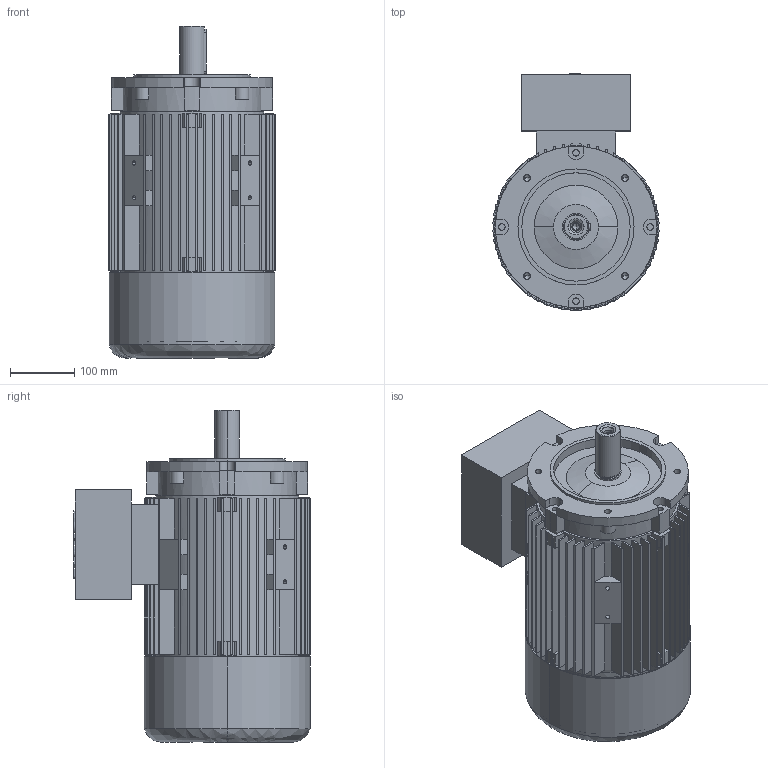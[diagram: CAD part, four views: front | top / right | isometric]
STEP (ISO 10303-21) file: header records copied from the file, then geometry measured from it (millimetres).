
FILE_DESCRIPTION (( 'STEP AP214' ), '1' );
FILE_NAME ('20.18367-C 7AZ 132S&M B14_small STANDK.STEP', '2018-05-07T12:01:09', ( '' ), ( '' ), 'SwSTEP 2.0', 'SolidWorks 2017', '' );
FILE_SCHEMA (( 'AUTOMOTIVE_DESIGN' ));
Length unit declared in the file: millimetre
Products named in the file (1): 20.18367-C 7AZ 132S&M B14_small STANDK
Bounding box: 257.79 x 366.89 x 515 mm (x, y, z)
Volume: 7787621.6 mm3; surface area: 1602357.5 mm2
Topology: 7 solids, 7 shells, 697 faces, 1874 edges, 1229 vertices
Faces by surface type: plane 469, cylinder 177, cone 38, bspline 13
Entity records: 22533 total; most frequent: CARTESIAN_POINT 4540, DIRECTION 3800, ORIENTED_EDGE 3712, EDGE_CURVE 1856, AXIS2_PLACEMENT_3D 1293, VERTEX_POINT 1229, VECTOR 1214, LINE 1214
